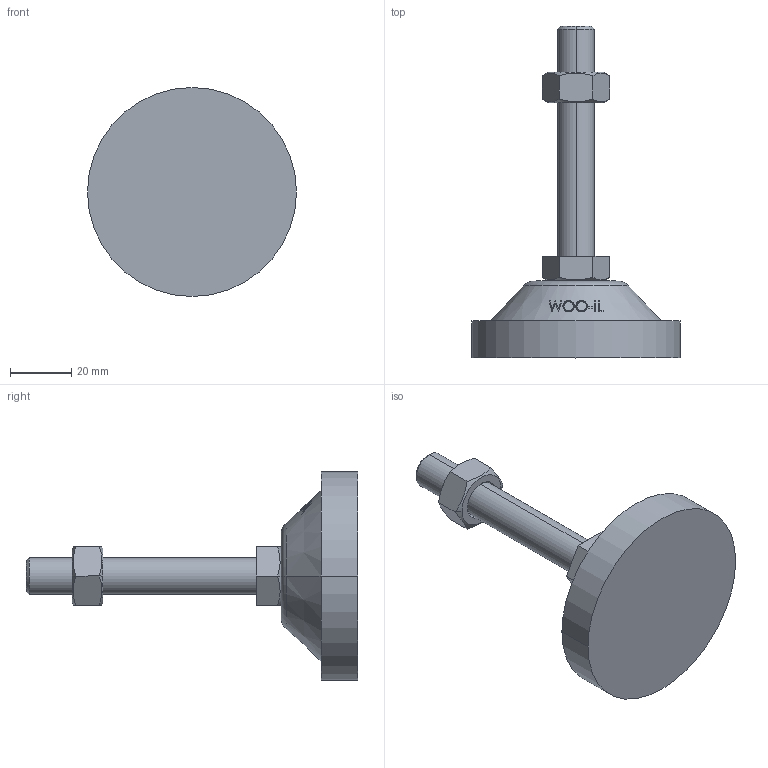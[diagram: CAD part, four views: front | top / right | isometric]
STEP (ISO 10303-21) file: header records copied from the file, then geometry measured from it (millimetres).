
FILE_DESCRIPTION (( 'STEP AP214' ), '1' );
FILE_NAME ('RL68-M12-75.step', '2021-01-06T08:17:27', ( '' ), ( '' ), 'SwSTEP 2.0', 'SolidWorks 2019', '' );
FILE_SCHEMA (( 'AUTOMOTIVE_DESIGN' ));
Length unit declared in the file: millimetre
Products named in the file (1): RL68-M12-75
Bounding box: 68 x 108 x 68 mm (x, y, z)
Volume: 76165 mm3; surface area: 15875.7 mm2
Topology: 3 solids, 3 shells, 93 faces, 217 edges, 140 vertices
Faces by surface type: plane 47, cone 22, bspline 16, cylinder 6, torus 2
Entity records: 4047 total; most frequent: CARTESIAN_POINT 2015, ORIENTED_EDGE 434, DIRECTION 349, EDGE_CURVE 217, VERTEX_POINT 140, AXIS2_PLACEMENT_3D 134, EDGE_LOOP 105, ADVANCED_FACE 93
